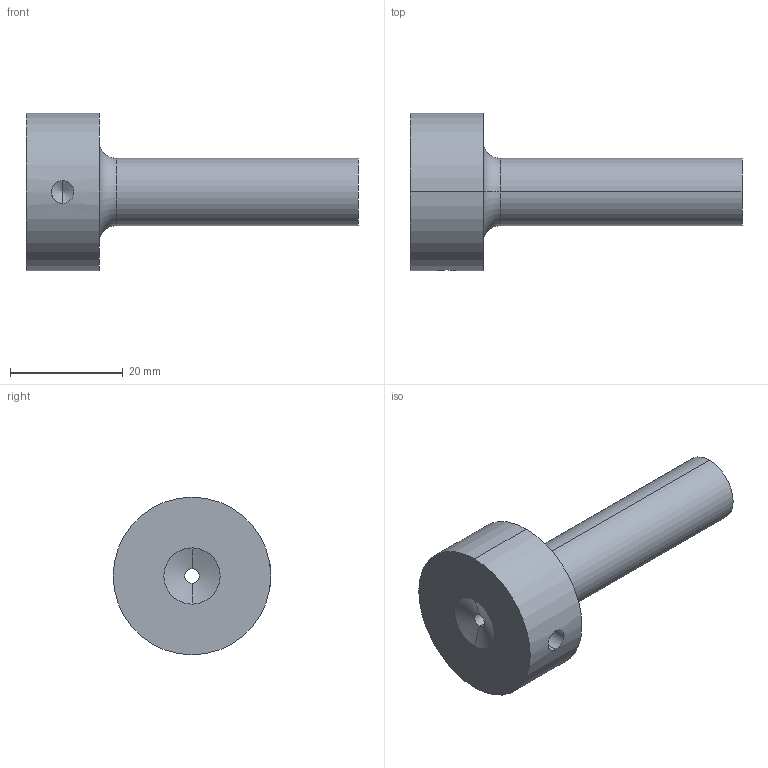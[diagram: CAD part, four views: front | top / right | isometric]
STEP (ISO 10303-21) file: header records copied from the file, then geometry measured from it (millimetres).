
FILE_DESCRIPTION (( 'STEP AP214' ), '1' );
FILE_NAME ('BR511 12X46X2,5X40.STEP', '2019-12-11T08:18:44', ( 'August' ), ( '' ), 'SwSTEP 2.0', 'SolidWorks 2018', '' );
FILE_SCHEMA (( 'AUTOMOTIVE_DESIGN' ));
Length unit declared in the file: millimetre
Products named in the file (1): BR511 12X46X2,5X40
Bounding box: 59 x 28 x 28 mm (x, y, z)
Volume: 12575.9 mm3; surface area: 4768.5 mm2
Topology: 1 solids, 1 shells, 17 faces, 36 edges, 21 vertices
Faces by surface type: cylinder 6, cone 4, torus 4, plane 3
Entity records: 538 total; most frequent: CARTESIAN_POINT 127, DIRECTION 90, ORIENTED_EDGE 68, AXIS2_PLACEMENT_3D 40, EDGE_CURVE 34, CIRCLE 22, VERTEX_POINT 21, EDGE_LOOP 21
